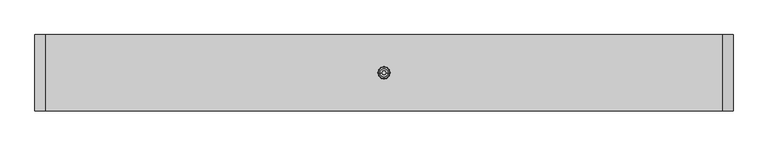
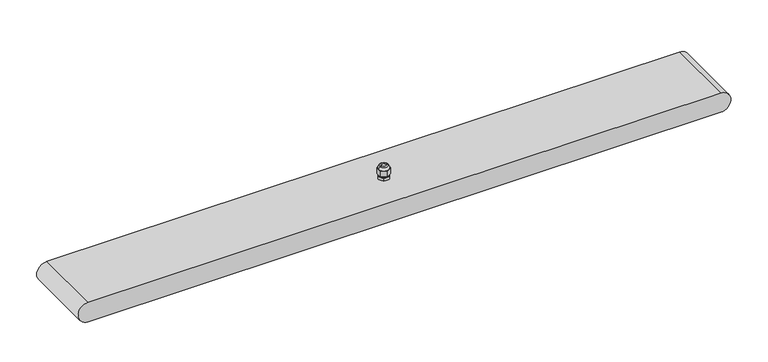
"""IFC4 building model written with IfcOpenShell, lengths in millimetres: light fixture geometry."""

import ifcopenshell
import ifcopenshell.guid

model = None  # the IFC model being written
_history = None  # IfcOwnerHistory: only IFC2X3 demands one
_inside = {}  # id of a spatial element -> (the spatial element, [elements in it])
_under = {}  # id of a project, library or spatial element -> (it, [spatial elements below it])
_declared = {}  # id of a project -> (the project, [libraries it declares])
_typed = {}  # id of a type object -> (the type object, [elements of that type])
_made_of = {}  # id of a material, layer set ... -> (it, [elements and type objects made of it])


def new_model(schema):
    """Start an empty IFC model of exactly this schema.

    Asked for "IFC4X3", IfcOpenShell would pick the latest addendum, in which some entities
    have other attributes; the version numbers below select the first issue.
    IFC2X3 requires an IfcOwnerHistory on every rooted entity: one is made here for all.
    """
    global model, _history
    if schema == "IFC4X3":
        model = ifcopenshell.file(schema_version=(4, 3, 0, 0))
    else:
        model = ifcopenshell.file(schema=schema)
    _inside.clear()
    _under.clear()
    _declared.clear()
    _typed.clear()
    _made_of.clear()
    _history = None
    if model.schema == "IFC2X3":
        org = make("IfcOrganization", Name="unknown")
        user = make(
            "IfcPersonAndOrganization",
            ThePerson=make("IfcPerson", FamilyName="unknown"),
            TheOrganization=org,
        )
        app = make(
            "IfcApplication",
            ApplicationDeveloper=org,
            Version="unknown",
            ApplicationFullName="unknown",
            ApplicationIdentifier="unknown",
        )
        _history = make(
            "IfcOwnerHistory",
            OwningUser=user,
            OwningApplication=app,
            ChangeAction="ADDED",
            CreationDate=0,
        )
    return model


def make(cls, **values):
    """One entity of the class cls with the attributes given. An attribute that is None is left unset."""
    return model.create_entity(
        cls, **{name: value for name, value in values.items() if value is not None}
    )


def rooted(cls, **values):
    """An entity with a GlobalId (a new one), such as an element, a storey or a relation."""
    return make(cls, GlobalId=ifcopenshell.guid.new(), OwnerHistory=_history, **values)


def si_unit(unit_type, name, prefix=None):
    """IfcSIUnit, for example si_unit("LENGTHUNIT", "METRE", prefix="MILLI")."""
    return make("IfcSIUnit", UnitType=unit_type, Prefix=prefix, Name=name)


def assignment(units):
    """IfcUnitAssignment: the units of a project."""
    return None if units is None else make("IfcUnitAssignment", Units=units)


def point(xyz):
    """IfcCartesianPoint."""
    return None if xyz is None else make("IfcCartesianPoint", Coordinates=xyz)


def direction(xyz):
    """IfcDirection."""
    return None if xyz is None else make("IfcDirection", DirectionRatios=xyz)


def frame(location, z_axis=None, x_axis=None):
    """IfcAxis2Placement3D, a coordinate frame: its origin and axes. An axis left out is left unset."""
    return make(
        "IfcAxis2Placement3D",
        Location=point(location),
        Axis=direction(z_axis),
        RefDirection=direction(x_axis),
    )


def origin():
    """The frame at (0, 0, 0) with its axes left unset."""
    return frame((0.0, 0.0, 0.0))


def origin_with_axes():
    """The frame at (0, 0, 0) with the z axis (0, 0, 1) and the x axis (1, 0, 0) written out."""
    return frame((0.0, 0.0, 0.0), z_axis=(0.0, 0.0, 1.0), x_axis=(1.0, 0.0, 0.0))


def place(relative_to, where):
    """IfcLocalPlacement: puts the frame where relative to a parent placement (None: the world)."""
    return make(
        "IfcLocalPlacement", PlacementRelTo=relative_to, RelativePlacement=where
    )


def context(
    kind, dimensions, precision=None, world=None, true_north=None, identifier=None
):
    """IfcGeometricRepresentationContext, for example the 3D "Model" context."""
    return make(
        "IfcGeometricRepresentationContext",
        ContextIdentifier=identifier,
        ContextType=kind,
        CoordinateSpaceDimension=dimensions,
        Precision=precision,
        WorldCoordinateSystem=world,
        TrueNorth=true_north,
    )


def project(units=None, contexts=None):
    """IfcProject with its units and contexts."""
    return rooted(
        "IfcProject",
        Name="project",
        RepresentationContexts=contexts,
        UnitsInContext=assignment(units),
    )


def spatial(cls, under=None, at=None, **own):
    """A site, building, storey or space (cls), placed at a placement, below another one or the project."""
    s = rooted(cls, ObjectPlacement=at, **own)
    if under is not None:
        _under.setdefault(under.id(), (under, []))[1].append(s)
    return s


def polyline(points):
    """IfcPolyline through the points."""
    return make("IfcPolyline", Points=[point(p) for p in points])


def circle_curve(where, radius):
    """IfcCircle in the frame where."""
    return make("IfcCircle", Position=where, Radius=radius)


def ellipse_curve(where, semi_axis1, semi_axis2):
    """IfcEllipse in the frame where."""
    return make(
        "IfcEllipse", Position=where, SemiAxis1=semi_axis1, SemiAxis2=semi_axis2
    )


def trimmed(basis, trim1, trim2, sense, master):
    """IfcTrimmedCurve: the piece of a basis curve between two trims."""
    return make(
        "IfcTrimmedCurve",
        BasisCurve=basis,
        Trim1=trim1,
        Trim2=trim2,
        SenseAgreement=sense,
        MasterRepresentation=master,
    )


def outline(outer, holes=None, kind="AREA"):
    """IfcArbitraryClosedProfileDef: a profile drawn as a closed curve; with holes, ...WithVoids."""
    if holes is None:
        return make("IfcArbitraryClosedProfileDef", ProfileType=kind, OuterCurve=outer)
    return make(
        "IfcArbitraryProfileDefWithVoids",
        ProfileType=kind,
        OuterCurve=outer,
        InnerCurves=holes,
    )


def extrude(swept, where, along, depth):
    """IfcExtrudedAreaSolid: the profile swept, set in the frame where, extruded along a direction by depth."""
    return make(
        "IfcExtrudedAreaSolid",
        SweptArea=swept,
        Position=where,
        ExtrudedDirection=direction(along),
        Depth=depth,
    )


def shape(context_of_items, identifier, shape_type, items):
    """IfcShapeRepresentation: the items that make up one representation, for example the "Body"."""
    return make(
        "IfcShapeRepresentation",
        ContextOfItems=context_of_items,
        RepresentationIdentifier=identifier,
        RepresentationType=shape_type,
        Items=items,
    )


def source(mapping_origin, context_of_items, identifier, shape_type, items):
    """IfcRepresentationMap: a shape defined once, which mapped items show again and again."""
    return make(
        "IfcRepresentationMap",
        MappingOrigin=mapping_origin,
        MappedRepresentation=shape(context_of_items, identifier, shape_type, items),
    )


def transform(
    local_origin,
    x_axis=None,
    y_axis=None,
    z_axis=None,
    scale=None,
    scale2=None,
    scale3=None,
    uniform=True,
):
    """IfcCartesianTransformationOperator3D, or its non-uniform kind. x_axis, y_axis, z_axis: its Axis1, 2, 3."""
    if uniform:
        return make(
            "IfcCartesianTransformationOperator3D",
            Axis1=direction(x_axis),
            Axis2=direction(y_axis),
            LocalOrigin=point(local_origin),
            Scale=scale,
            Axis3=direction(z_axis),
        )
    return make(
        "IfcCartesianTransformationOperator3DnonUniform",
        Axis1=direction(x_axis),
        Axis2=direction(y_axis),
        LocalOrigin=point(local_origin),
        Scale=scale,
        Axis3=direction(z_axis),
        Scale2=scale2,
        Scale3=scale3,
    )


def mapped(mapping_source, mapping_target):
    """IfcMappedItem: shows the shape of a source again, moved by a transform."""
    return make(
        "IfcMappedItem", MappingSource=mapping_source, MappingTarget=mapping_target
    )


def made_of(thing, what):
    """Note that an element or type object is made of a material, layer set ...; save() writes the relation."""
    if what is not None:
        _made_of.setdefault(what.id(), (what, []))[1].append(thing)
    return thing


def element(
    cls,
    number,
    at=None,
    inside=None,
    cuts=None,
    type_object=None,
    material=None,
    context=None,
    identifier="Body",
    shape_type=None,
    held_by="IfcProductDefinitionShape",
    body=None,
    shapes=None,
    **own,
):
    """One element of the class cls, such as IfcWall. Its Tag is "e" and its number.

    at: its placement. inside: the storey or other place that contains it. cuts: it is an
    opening in that element (IfcRelVoidsElement). A single representation is given by context,
    identifier, shape_type and body (its items); several are given by shapes. held_by: the class
    of the entity that holds the representations. save() writes the other relations.
    """
    e = rooted(cls, Tag="e%d" % number, ObjectPlacement=at, **own)
    if body is not None:
        shapes = [shape(context, identifier, shape_type, body)]
    if shapes is not None:
        e.Representation = make(held_by, Representations=shapes)
    if inside is not None:
        _inside.setdefault(inside.id(), (inside, []))[1].append(e)
    if cuts is not None:
        rooted(
            "IfcRelVoidsElement", RelatingBuildingElement=cuts, RelatedOpeningElement=e
        )
    if type_object is not None:
        _typed.setdefault(type_object.id(), (type_object, []))[1].append(e)
    return made_of(e, material)


def aggregate(whole, parts):
    """IfcRelAggregates: a whole, such as a stair, and the parts it consists of."""
    return rooted("IfcRelAggregates", RelatingObject=whole, RelatedObjects=parts)


def save(model, path):
    """Write the relations noted so far, then the file.

    IfcRelAggregates (storeys below a building ...), IfcRelContainedInSpatialStructure (elements
    in a storey), IfcRelDefinesByType, IfcRelAssociatesMaterial and IfcRelDeclares: one each for
    every whole, place, type object, material and project.
    """
    for whole, parts in _under.values():
        aggregate(whole, parts)
    for where, things in _inside.values():
        rooted(
            "IfcRelContainedInSpatialStructure",
            RelatedElements=things,
            RelatingStructure=where,
        )
    for kind, things in _typed.values():
        rooted("IfcRelDefinesByType", RelatedObjects=things, RelatingType=kind)
    for what, things in _made_of.values():
        rooted("IfcRelAssociatesMaterial", RelatedObjects=things, RelatingMaterial=what)
    for by, libraries in _declared.values():
        rooted("IfcRelDeclares", RelatingContext=by, RelatedDefinitions=libraries)
    model.write(path)


def plane_surface(at):
    """IfcPlane: the flat surface through the origin of the frame at, square to its z axis."""
    return make("IfcPlane", Position=at)


def cylinder_surface(at, radius):
    """IfcCylindricalSurface: all points at the distance radius from the z axis of the frame at."""
    return make("IfcCylindricalSurface", Position=at, Radius=radius)


def revolved_surface(curve, axis_point, axis_direction):
    """IfcSurfaceOfRevolution: the curve turned about the line through axis_point along axis_direction."""
    return make(
        "IfcSurfaceOfRevolution",
        SweptCurve=make("IfcArbitraryOpenProfileDef", ProfileType="CURVE", Curve=curve),
        AxisPosition=make("IfcAxis1Placement", Location=point(axis_point), Axis=direction(axis_direction)),
    )


def advanced_brep(points, edges, surfaces, faces):
    """IfcAdvancedBrep: a solid bounded by faces that lie on surfaces and meet in shared edges.

    An edge is (start, end): straight between two places in points (the first is 0);
    or (start, end, curve); or (start, end, curve, False) where it runs against its curve.
    A face is (place in surfaces, loops), or (place, loops, False) where it looks against
    its surface's normal. A loop lists edges by number (the first is 1), with a minus sign
    where the edge is run from its end to its start. The first loop is the outer one.
    """
    corners = [point(p) for p in points]
    vertices = [make("IfcVertexPoint", VertexGeometry=c) for c in corners]
    made = []
    for start, end, *more in edges:
        made.append(
            make(
                "IfcEdgeCurve",
                EdgeStart=vertices[start],
                EdgeEnd=vertices[end],
                EdgeGeometry=more[0] if more else make("IfcPolyline", Points=[corners[start], corners[end]]),
                SameSense=more[1] if len(more) > 1 else True,
            )
        )
    hull = []
    for where, loops, *sense in faces:
        bounds = []
        for j, loop in enumerate(loops):
            ring = [make("IfcOrientedEdge", EdgeElement=made[abs(k) - 1], Orientation=k > 0) for k in loop]
            bounds.append(
                make(
                    "IfcFaceOuterBound" if j == 0 else "IfcFaceBound",
                    Bound=make("IfcEdgeLoop", EdgeList=ring),
                    Orientation=True,
                )
            )
        hull.append(make("IfcAdvancedFace", Bounds=bounds, FaceSurface=surfaces[where], SameSense=sense[0] if sense else True))
    return make("IfcAdvancedBrep", Outer=make("IfcClosedShell", CfsFaces=hull))


def light_fixture_4e222f7b(model_context):
    return source(origin(), model_context, "Body", "SolidModel", [
        advanced_brep(
        [(5.85, 0.0, 52.0120269), (-5.85, 0.0, 52.0120269), (-3.5, 0.0, 52.0120269), (3.5, 0.0, 52.0120269), (8.0, 0.0, 48.0120269), (4.0, 6.9282032, 48.0120269), (-4.0, 6.9282032, 48.0120269), (-8.0, 0.0, 48.0120269), (-4.0, -6.9282032, 48.0120269), (4.0, -6.9282032, 48.0120269), (-3.5, 0.0, 48.0120269), (3.5, 0.0, 48.0120269), (8.0, 4.1231056, 48.0120269), (7.5707142, 4.8666504, 48.0120269), (0.4292858, 8.989756, 48.0120269), (-0.4292858, 8.989756, 48.0120269), (-7.5707142, 4.8666504, 48.0120269), (-8.0, 4.1231056, 48.0120269), (-8.0, -4.1231056, 48.0120269), (-7.5707142, -4.8666504, 48.0120269), (-0.4292858, -8.989756, 48.0120269), (0.4292858, -8.989756, 48.0120269), (7.5707142, -4.8666504, 48.0120269), (8.0, -4.1231056, 48.0120269), (0.4292858, 8.989756, 38.6), (7.5707142, 4.8666504, 38.6), (8.0, 4.1231056, 38.6), (8.0, -4.1231056, 38.6), (7.5707142, -4.8666504, 38.6), (0.4292858, -8.989756, 38.6), (-0.4292858, -8.989756, 38.6), (-7.5707142, -4.8666504, 38.6), (-8.0, -4.1231056, 38.6), (-8.0, 4.1231056, 38.6), (-7.5707142, 4.8666504, 38.6), (-0.4292858, 8.989756, 38.6), (-7.25, 0.0, 38.6), (7.25, 0.0, 38.6), (-7.25, 0.0, 36.6), (7.25, 0.0, 36.6), (-8.989756, -0.4292858, 36.6), (-4.8666504, -7.5707142, 36.6), (-4.1231056, -8.0, 36.6), (4.1231056, -8.0, 36.6), (4.8666504, -7.5707142, 36.6), (8.989756, -0.4292858, 36.6), (9.0, 0.0, 36.6), (8.989756, 0.4292858, 36.6), (4.8666504, 7.5707142, 36.6), (4.1231056, 8.0, 36.6), (-4.1231056, 8.0, 36.6), (-4.8666504, 7.5707142, 36.6), (-8.989756, 0.4292858, 36.6), (-9.0, 0.0, 36.6), (-8.989756, 0.4292858, 32.0), (-4.8666504, 7.5707142, 32.0), (-4.1231056, 8.0, 32.0), (4.1231056, 8.0, 32.0), (4.8666504, 7.5707142, 32.0), (8.989756, 0.4292858, 32.0), (9.0, 0.0, 32.0), (8.989756, -0.4292858, 32.0), (4.8666504, -7.5707142, 32.0), (4.1231056, -8.0, 32.0), (-4.1231056, -8.0, 32.0), (-4.8666504, -7.5707142, 32.0), (-8.989756, -0.4292858, 32.0), (-9.0, 0.0, 32.0)],
        [
            (0, 1, circle_curve(frame((0.0, 0.0, 52.0120269), z_axis=(0.0, 0.0, 1.0), x_axis=(-1.0, 0.0, 0.0)), 5.85)),
            (1, 2),
            (2, 3, circle_curve(frame((0.0, 0.0, 52.0120269), z_axis=(0.0, 0.0, -1.0), x_axis=(-1.0, 0.0, 0.0)), 3.5)),
            (3, 0),
            (1, 0, circle_curve(frame((0.0, 0.0, 52.0120269), z_axis=(0.0, 0.0, 1.0), x_axis=(-1.0, 0.0, 0.0)), 5.85)),
            (3, 2, circle_curve(frame((0.0, 0.0, 52.0120269), z_axis=(0.0, 0.0, -1.0), x_axis=(-1.0, 0.0, 0.0)), 3.5)),
            (0, 4, circle_curve(frame((2.4876149, 0.0, 47.6269324), z_axis=(0.0, 1.0, 0.0), x_axis=(-1.0, 0.0, 0.0)), 5.5258201)),
            (4, 5, circle_curve(frame((0.0, 0.0, 48.0120269), z_axis=(0.0, 0.0, 1.0), x_axis=(-1.0, 0.0, 0.0)), 8.0)),
            (5, 6, circle_curve(frame((0.0, 0.0, 48.0120269), z_axis=(0.0, 0.0, 1.0), x_axis=(-1.0, 0.0, 0.0)), 8.0)),
            (6, 7, circle_curve(frame((0.0, 0.0, 48.0120269), z_axis=(0.0, 0.0, 1.0), x_axis=(-1.0, 0.0, 0.0)), 8.0)),
            (7, 1, circle_curve(frame((-2.4876149, 0.0, 47.6269324), z_axis=(0.0, 1.0, 0.0), x_axis=(1.0, 0.0, 0.0)), 5.5258201)),
            (7, 8, circle_curve(frame((0.0, 0.0, 48.0120269), z_axis=(0.0, 0.0, 1.0), x_axis=(-1.0, 0.0, 0.0)), 8.0)),
            (8, 9, circle_curve(frame((0.0, 0.0, 48.0120269), z_axis=(0.0, 0.0, 1.0), x_axis=(-1.0, 0.0, 0.0)), 8.0)),
            (9, 4, circle_curve(frame((0.0, 0.0, 48.0120269), z_axis=(0.0, 0.0, 1.0), x_axis=(-1.0, 0.0, 0.0)), 8.0)),
            (2, 10),
            (10, 11, circle_curve(frame((0.0, 0.0, 48.0120269), z_axis=(0.0, 0.0, -1.0), x_axis=(-1.0, 0.0, 0.0)), 3.5)),
            (11, 3),
            (11, 10, circle_curve(frame((0.0, 0.0, 48.0120269), z_axis=(0.0, 0.0, -1.0), x_axis=(-1.0, 0.0, 0.0)), 3.5)),
            (4, 12),
            (12, 13, circle_curve(frame((0.0, 0.0, 48.0120269), z_axis=(0.0, 0.0, 1.0), x_axis=(1.0, 0.0, 0.0)), 9.0)),
            (13, 5),
            (5, 14),
            (14, 15, circle_curve(frame((0.0, 0.0, 48.0120269), z_axis=(0.0, 0.0, 1.0), x_axis=(1.0, 0.0, 0.0)), 9.0)),
            (15, 6),
            (6, 16),
            (16, 17, circle_curve(frame((0.0, 0.0, 48.0120269), z_axis=(0.0, 0.0, 1.0), x_axis=(1.0, 0.0, 0.0)), 9.0)),
            (17, 7),
            (7, 18),
            (18, 19, circle_curve(frame((0.0, 0.0, 48.0120269), z_axis=(0.0, 0.0, 1.0), x_axis=(1.0, 0.0, 0.0)), 9.0)),
            (19, 8),
            (8, 20),
            (20, 21, circle_curve(frame((0.0, 0.0, 48.0120269), z_axis=(0.0, 0.0, 1.0), x_axis=(1.0, 0.0, 0.0)), 9.0)),
            (21, 9),
            (9, 22),
            (22, 23, circle_curve(frame((0.0, 0.0, 48.0120269), z_axis=(0.0, 0.0, 1.0), x_axis=(1.0, 0.0, 0.0)), 9.0)),
            (23, 4),
            (24, 25),
            (25, 26, circle_curve(frame((0.0, 0.0, 38.6), z_axis=(0.0, 0.0, -1.0), x_axis=(1.0, 0.0, 0.0)), 9.0)),
            (26, 27),
            (27, 28, circle_curve(frame((0.0, 0.0, 38.6), z_axis=(0.0, 0.0, -1.0), x_axis=(1.0, 0.0, 0.0)), 9.0)),
            (28, 29),
            (29, 30, circle_curve(frame((0.0, 0.0, 38.6), z_axis=(0.0, 0.0, -1.0), x_axis=(1.0, 0.0, 0.0)), 9.0)),
            (30, 31),
            (31, 32, circle_curve(frame((0.0, 0.0, 38.6), z_axis=(0.0, 0.0, -1.0), x_axis=(1.0, 0.0, 0.0)), 9.0)),
            (32, 33),
            (33, 34, circle_curve(frame((0.0, 0.0, 38.6), z_axis=(0.0, 0.0, -1.0), x_axis=(1.0, 0.0, 0.0)), 9.0)),
            (34, 35),
            (35, 24, circle_curve(frame((0.0, 0.0, 38.6), z_axis=(0.0, 0.0, -1.0), x_axis=(1.0, 0.0, 0.0)), 9.0)),
            (36, 37, circle_curve(frame((0.0, 0.0, 38.6), z_axis=(0.0, 0.0, 1.0), x_axis=(1.0, 0.0, 0.0)), 7.25)),
            (37, 36, circle_curve(frame((0.0, 0.0, 38.6), z_axis=(0.0, 0.0, 1.0), x_axis=(1.0, 0.0, 0.0)), 7.25)),
            (15, 35),
            (34, 16),
            (17, 33),
            (32, 18),
            (19, 31),
            (30, 20),
            (21, 29),
            (28, 22),
            (23, 27),
            (26, 12),
            (13, 25),
            (24, 14),
            (36, 38),
            (38, 39, circle_curve(frame((0.0, 0.0, 36.6), z_axis=(0.0, 0.0, 1.0), x_axis=(1.0, 0.0, 0.0)), 7.25)),
            (39, 37),
            (39, 38, circle_curve(frame((0.0, 0.0, 36.6), z_axis=(0.0, 0.0, 1.0), x_axis=(1.0, 0.0, 0.0)), 7.25)),
            (40, 41),
            (41, 42, circle_curve(frame((0.0, 0.0, 36.6), z_axis=(0.0, 0.0, 1.0), x_axis=(1.0, 0.0, 0.0)), 9.0)),
            (42, 43),
            (43, 44, circle_curve(frame((0.0, 0.0, 36.6), z_axis=(0.0, 0.0, 1.0), x_axis=(1.0, 0.0, 0.0)), 9.0)),
            (44, 45),
            (45, 46, circle_curve(frame((0.0, 0.0, 36.6), z_axis=(0.0, 0.0, 1.0), x_axis=(1.0, 0.0, 0.0)), 9.0)),
            (46, 47, circle_curve(frame((0.0, 0.0, 36.6), z_axis=(0.0, 0.0, 1.0), x_axis=(1.0, 0.0, 0.0)), 9.0)),
            (47, 48),
            (48, 49, circle_curve(frame((0.0, 0.0, 36.6), z_axis=(0.0, 0.0, 1.0), x_axis=(1.0, 0.0, 0.0)), 9.0)),
            (49, 50),
            (50, 51, circle_curve(frame((0.0, 0.0, 36.6), z_axis=(0.0, 0.0, 1.0), x_axis=(1.0, 0.0, 0.0)), 9.0)),
            (51, 52),
            (52, 53, circle_curve(frame((0.0, 0.0, 36.6), z_axis=(0.0, 0.0, 1.0), x_axis=(1.0, 0.0, 0.0)), 9.0)),
            (53, 40, circle_curve(frame((0.0, 0.0, 36.6), z_axis=(0.0, 0.0, 1.0), x_axis=(1.0, 0.0, 0.0)), 9.0)),
            (54, 55),
            (55, 56, circle_curve(frame((0.0, 0.0, 32.0), z_axis=(0.0, 0.0, -1.0), x_axis=(1.0, 0.0, 0.0)), 9.0)),
            (56, 57),
            (57, 58, circle_curve(frame((0.0, 0.0, 32.0), z_axis=(0.0, 0.0, -1.0), x_axis=(1.0, 0.0, 0.0)), 9.0)),
            (58, 59),
            (59, 60, circle_curve(frame((0.0, 0.0, 32.0), z_axis=(0.0, 0.0, -1.0), x_axis=(1.0, 0.0, 0.0)), 9.0)),
            (60, 61, circle_curve(frame((0.0, 0.0, 32.0), z_axis=(0.0, 0.0, -1.0), x_axis=(1.0, 0.0, 0.0)), 9.0)),
            (61, 62),
            (62, 63, circle_curve(frame((0.0, 0.0, 32.0), z_axis=(0.0, 0.0, -1.0), x_axis=(1.0, 0.0, 0.0)), 9.0)),
            (63, 64),
            (64, 65, circle_curve(frame((0.0, 0.0, 32.0), z_axis=(0.0, 0.0, -1.0), x_axis=(1.0, 0.0, 0.0)), 9.0)),
            (65, 66),
            (66, 67, circle_curve(frame((0.0, 0.0, 32.0), z_axis=(0.0, 0.0, -1.0), x_axis=(1.0, 0.0, 0.0)), 9.0)),
            (67, 54, circle_curve(frame((0.0, 0.0, 32.0), z_axis=(0.0, 0.0, -1.0), x_axis=(1.0, 0.0, 0.0)), 9.0)),
            (40, 66),
            (65, 41),
            (42, 64),
            (63, 43),
            (44, 62),
            (61, 45),
            (47, 59),
            (58, 48),
            (49, 57),
            (56, 50),
            (51, 55),
            (54, 52),
            (67, 53),
            (46, 60),
        ],
        [
            plane_surface(frame((0.0, 0.0, 52.0120269), z_axis=(0.0, 0.0, 1.0), x_axis=(-1.0, 0.0, 0.0))),
            revolved_surface(trimmed(ellipse_curve(frame((-2.4876149, 0.0, 47.6269324), z_axis=(0.0, -1.0, 0.0), x_axis=(1.0, 0.0, 0.0)), 5.5258201, 5.5258201), [point((-5.85, 0.0, 52.0120269))], [point((-8.0, 0.0, 48.0120269))], True, "CARTESIAN"), (0.0, 0.0, 48.0120269), (0.0, 0.0, -1.0)),
            revolved_surface(polyline([(-3.5, 0.0, 48.0120269), (-3.5, 0.0, 52.0120269)]), (0.0, 0.0, 48.0120269), (0.0, 0.0, -1.0)),
            plane_surface(frame((0.0, 9.2376043, 48.0120269), z_axis=(0.0, 0.0, 1.0000000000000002), x_axis=(-0.8660254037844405, -0.49999999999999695, 0.0))),
            plane_surface(frame((0.0, 9.2376043, 38.6), z_axis=(0.0, 0.0, -1.0000000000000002), x_axis=(0.8660254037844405, 0.49999999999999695, 0.0))),
            plane_surface(frame((0.0, 9.2376043, 48.0120269), z_axis=(-0.49999999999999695, 0.8660254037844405, 0.0), x_axis=(0.0, 0.0, -1.0))),
            plane_surface(frame((-8.0, 4.6188022, 48.0120269), z_axis=(-1.0, 0.0, 0.0), x_axis=(0.0, 0.0, -1.0))),
            plane_surface(frame((-8.0, -4.6188022, 48.0120269), z_axis=(-0.5000000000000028, -0.8660254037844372, 0.0), x_axis=(0.0, 0.0, -1.0))),
            plane_surface(frame((0.0, -9.2376043, 48.0120269), z_axis=(0.49999999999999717, -0.8660254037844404, 0.0), x_axis=(0.0, 0.0, -1.0))),
            plane_surface(frame((8.0, -4.6188022, 48.0120269), z_axis=(1.0, 0.0, 0.0), x_axis=(0.0, 0.0, -1.0))),
            plane_surface(frame((8.0, 4.6188022, 48.0120269), z_axis=(0.5000000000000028, 0.8660254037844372, 0.0), x_axis=(0.0, 0.0, -1.0))),
            cylinder_surface(frame((0.0, 0.0, 36.6), z_axis=(0.0, 0.0, 1.0), x_axis=(1.0, 0.0, 0.0)), 7.25),
            plane_surface(frame((-9.2376043, 0.0, 36.6), z_axis=(0.0, 0.0, 1.0), x_axis=(0.5000000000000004, -0.8660254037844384, 0.0))),
            plane_surface(frame((-9.2376043, 0.0, 32.0), z_axis=(0.0, 0.0, -1.0), x_axis=(-0.5000000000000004, 0.8660254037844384, 0.0))),
            plane_surface(frame((-9.2376043, 0.0, 36.6), z_axis=(-0.8660254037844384, -0.5000000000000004, 0.0), x_axis=(0.0, 0.0, -1.0))),
            plane_surface(frame((-4.6188022, -8.0, 36.6), z_axis=(0.0, -1.0, 0.0), x_axis=(0.0, 0.0, -1.0))),
            plane_surface(frame((4.6188022, -8.0, 36.6), z_axis=(0.866025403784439, -0.49999999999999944, 0.0), x_axis=(0.0, 0.0, -1.0))),
            plane_surface(frame((9.2376043, 0.0, 36.6), z_axis=(0.8660254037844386, 0.5000000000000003, 0.0), x_axis=(0.0, 0.0, -1.0))),
            plane_surface(frame((4.6188022, 8.0, 36.6), z_axis=(0.0, 1.0, 0.0), x_axis=(0.0, 0.0, -1.0))),
            plane_surface(frame((-4.6188022, 8.0, 36.6), z_axis=(-0.8660254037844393, 0.49999999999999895, 0.0), x_axis=(0.0, 0.0, -1.0))),
            cylinder_surface(frame((0.0, 0.0, 32.0), z_axis=(0.0, 0.0, -1.0), x_axis=(1.0, 0.0, 0.0)), 9.0),
        ],
        [
            (0, [[1, 2, 3, 4]]),
            (0, [[-2, 5, -4, 6]]),
            (1, [[-1, 7, 8, 9, 10, 11]]),
            (1, [[-5, -11, 12, 13, 14, -7]]),
            (2, [[-3, 15, 16, 17]]),
            (2, [[-6, -17, 18, -15]]),
            (3, [[-8, 19, 20, 21]]),
            (3, [[-9, 22, 23, 24]]),
            (3, [[-10, 25, 26, 27]]),
            (3, [[-12, 28, 29, 30]]),
            (3, [[-13, 31, 32, 33]]),
            (3, [[-14, 34, 35, 36]]),
            (3, [[-16, -18]]),
            (4, [[37, 38, 39, 40, 41, 42, 43, 44, 45, 46, 47, 48], [49, 50]]),
            (5, [[-25, -24, 51, -47, 52]]),
            (6, [[-27, 53, -45, 54, -28]]),
            (7, [[-30, 55, -43, 56, -31]]),
            (8, [[-34, -33, 57, -41, 58]]),
            (9, [[-36, 59, -39, 60, -19]]),
            (10, [[-21, 61, -37, 62, -22]]),
            (11, [[63, 64, 65, -49]]),
            (11, [[-63, -50, -65, 66]]),
            (12, [[67, 68, 69, 70, 71, 72, 73, 74, 75, 76, 77, 78, 79, 80], [-64, -66]]),
            (13, [[81, 82, 83, 84, 85, 86, 87, 88, 89, 90, 91, 92, 93, 94]]),
            (14, [[-67, 95, -92, 96]]),
            (15, [[-69, 97, -90, 98]]),
            (16, [[-71, 99, -88, 100]]),
            (17, [[-74, 101, -85, 102]]),
            (18, [[-76, 103, -83, 104]]),
            (19, [[-78, 105, -81, 106]]),
            (20, [[-20, -60, -38, -61]]),
            (20, [[-23, -62, -48, -51]]),
            (20, [[-26, -52, -46, -53]]),
            (20, [[-75, -102, -84, -103]]),
            (20, [[-77, -104, -82, -105]]),
            (20, [[107, -79, -106, -94]]),
            (20, [[108, -86, -101, -73]]),
            (20, [[-29, -54, -44, -55]]),
            (20, [[-32, -56, -42, -57]]),
            (20, [[-35, -58, -40, -59]]),
            (20, [[-68, -96, -91, -97]]),
            (20, [[-70, -98, -89, -99]]),
            (20, [[-107, -93, -95, -80]]),
            (20, [[-108, -72, -100, -87]]),
        ],
    ),
        advanced_brep(
        [(496.5, -56.0, 32.0), (-496.5, -56.0, 32.0), (-496.5, -56.0, 0.0), (496.5, -56.0, 0.0), (496.5, 56.0, 32.0), (496.5, 56.0, 0.0), (-496.5, 56.0, 0.0), (-496.5, 56.0, 32.0), (-496.5, 46.0, 0.0), (-496.5, -46.0, 0.0), (496.5, -46.0, 0.0), (496.5, 46.0, 0.0), (496.5, 46.0, 2.0), (496.5, -46.0, 2.0), (-496.5, -46.0, 2.0), (-496.5, 46.0, 2.0)],
        [
            (0, 1),
            (1, 2, circle_curve(frame((-496.5, -56.0, 16.0), z_axis=(0.0, -1.0, 0.0), x_axis=(1.0, 0.0, 0.0)), 16.0)),
            (2, 3),
            (3, 0, circle_curve(frame((496.5, -56.0, 16.0), z_axis=(0.0, -1.0, 0.0), x_axis=(1.0, 0.0, 0.0)), 16.0)),
            (4, 5, circle_curve(frame((496.5, 56.0, 16.0), z_axis=(0.0, 1.0, 0.0), x_axis=(1.0, 0.0, 0.0)), 16.0)),
            (5, 6),
            (6, 7, circle_curve(frame((-496.5, 56.0, 16.0), z_axis=(0.0, 1.0, 0.0), x_axis=(1.0, 0.0, 0.0)), 16.0)),
            (7, 4),
            (0, 4),
            (7, 1),
            (6, 8),
            (8, 9),
            (9, 2),
            (9, 10),
            (10, 3),
            (5, 11),
            (11, 8),
            (10, 11),
            (12, 13),
            (13, 14),
            (14, 15),
            (15, 12),
            (15, 8),
            (11, 12),
            (14, 9),
            (13, 10),
        ],
        [
            plane_surface(frame((-496.5, -56.0, 32.0), z_axis=(0.0, -1.0, 0.0), x_axis=(-1.0, 0.0, 0.0))),
            plane_surface(frame((-496.5, 56.0, 32.0), z_axis=(0.0, 1.0, 0.0), x_axis=(1.0, 0.0, 0.0))),
            plane_surface(frame((496.5, -56.0, 32.0), z_axis=(0.0, 0.0, 1.0), x_axis=(0.0, 1.0, 0.0))),
            cylinder_surface(frame((-496.5, 56.0, 16.0), z_axis=(0.0, -1.0, 0.0), x_axis=(1.0, 0.0, 0.0)), 16.0),
            plane_surface(frame((-496.5, -56.0, 0.0), z_axis=(0.0, 0.0, -1.0), x_axis=(0.0, 1.0, 0.0))),
            cylinder_surface(frame((496.5, 56.0, 16.0), z_axis=(0.0, -1.0, 0.0), x_axis=(1.0, 0.0, 0.0)), 16.0),
            plane_surface(frame((-496.5, 46.0, 2.0), z_axis=(0.0, 0.0, -1.0), x_axis=(-1.0, 0.0, 0.0))),
            plane_surface(frame((496.5, 46.0, 2.0), z_axis=(0.0, -1.0, 0.0), x_axis=(0.0, 0.0, -1.0))),
            plane_surface(frame((-496.5, 46.0, 2.0), z_axis=(1.0, 0.0, 0.0), x_axis=(0.0, 0.0, -1.0))),
            plane_surface(frame((-496.5, -46.0, 2.0), z_axis=(0.0, 1.0, 0.0), x_axis=(0.0, 0.0, -1.0))),
            plane_surface(frame((496.5, -46.0, 2.0), z_axis=(-1.0, 0.0, 0.0), x_axis=(0.0, 0.0, -1.0))),
        ],
        [
            (0, [[1, 2, 3, 4]]),
            (1, [[5, 6, 7, 8]]),
            (2, [[-1, 9, -8, 10]]),
            (3, [[-2, -10, -7, 11, 12, 13]]),
            (4, [[-3, -13, 14, 15]]),
            (4, [[-6, 16, 17, -11]]),
            (5, [[-4, -15, 18, -16, -5, -9]]),
            (6, [[19, 20, 21, 22]]),
            (7, [[-22, 23, -17, 24]]),
            (8, [[-21, 25, -12, -23]]),
            (9, [[-20, 26, -14, -25]]),
            (10, [[-19, -24, -18, -26]]),
        ],
    ),
        extrude(outline(polyline([(496.5, 46.0), (496.5, -46.0), (-496.5, -46.0), (-496.5, 46.0), (496.5, 46.0)])), origin_with_axes(), (0.0, 0.0, 1.0), 2.0),
    ])


if __name__ == "__main__":
    model = new_model("IFC4")
    model_context = context("Model", 3, world=origin())
    ifc_project = project(units=[si_unit("LENGTHUNIT", "METRE", prefix="MILLI")], contexts=[model_context])
    site = spatial("IfcSite", under=ifc_project)
    building = spatial("IfcBuilding", under=site)
    placement = place(None, origin())
    light_fixture_shape = light_fixture_4e222f7b(model_context)
    element("IfcLightFixture", 1, at=placement, inside=building, context=model_context, shape_type="MappedRepresentation", body=[
        mapped(light_fixture_shape, transform((0.0, 0.0, 0.0), x_axis=(1.0, 0.0, 0.0), y_axis=(0.0, 1.0, 0.0), z_axis=(0.0, 0.0, 1.0))),
    ])
    save(model, "model.ifc")
